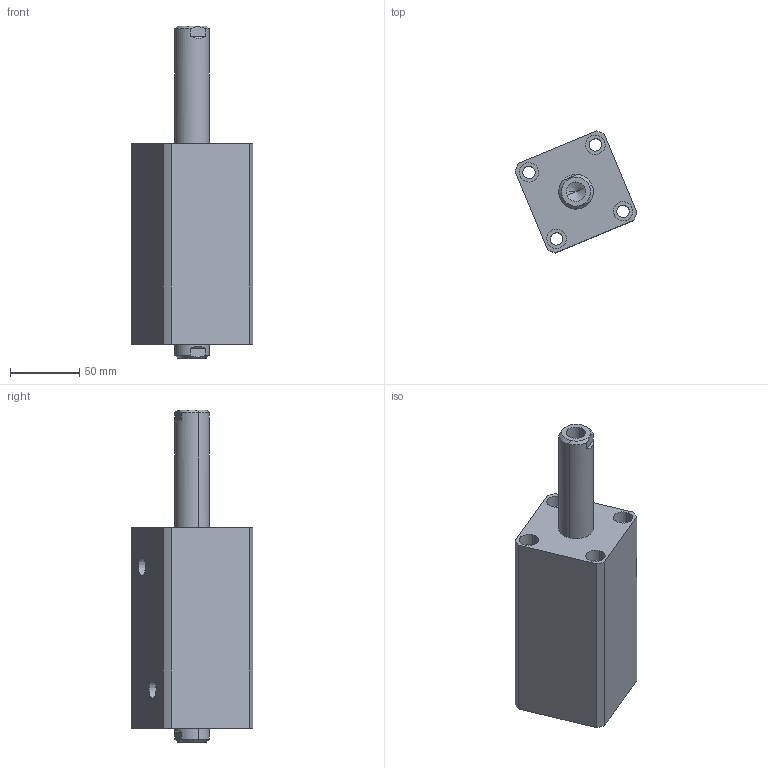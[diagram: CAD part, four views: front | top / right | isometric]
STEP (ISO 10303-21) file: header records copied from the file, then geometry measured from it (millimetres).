
FILE_DESCRIPTION (( 'STEP AP214' ), '1' );
FILE_NAME ('chtb-sw40x75n_asm.STEP', '2018-06-08T12:09:28', ( 'Windows' ), ( 'Microsoft' ), 'SwSTEP 2.0', 'SolidWorks 2015', '' );
FILE_SCHEMA (( 'AUTOMOTIVE_DESIGN' ));
Length unit declared in the file: millimetre
Products named in the file (4): CHTB-SW40X75NHSG; CHTB-SW40X75NBT; CHTB-SD40QG; chtb-sw40x75n_asm
Assembly tree (3 placements, depth 2):
  chtb-sw40x75n_asm
    CHTB-SD40QG
    CHTB-SW40X75NBT
    CHTB-SW40X75NHSG
Bounding box: 88.11 x 88.11 x 240 mm (x, y, z)
Volume: 638212.2 mm3; surface area: 117964.1 mm2
Topology: 3 solids, 3 shells, 167 faces, 429 edges, 282 vertices
Faces by surface type: cylinder 84, plane 40, cone 17, bspline 14, torus 12
Entity records: 10325 total; most frequent: CARTESIAN_POINT 6131, ORIENTED_EDGE 838, DIRECTION 822, EDGE_CURVE 419, AXIS2_PLACEMENT_3D 348, VERTEX_POINT 282, EDGE_LOOP 207, CIRCLE 189
